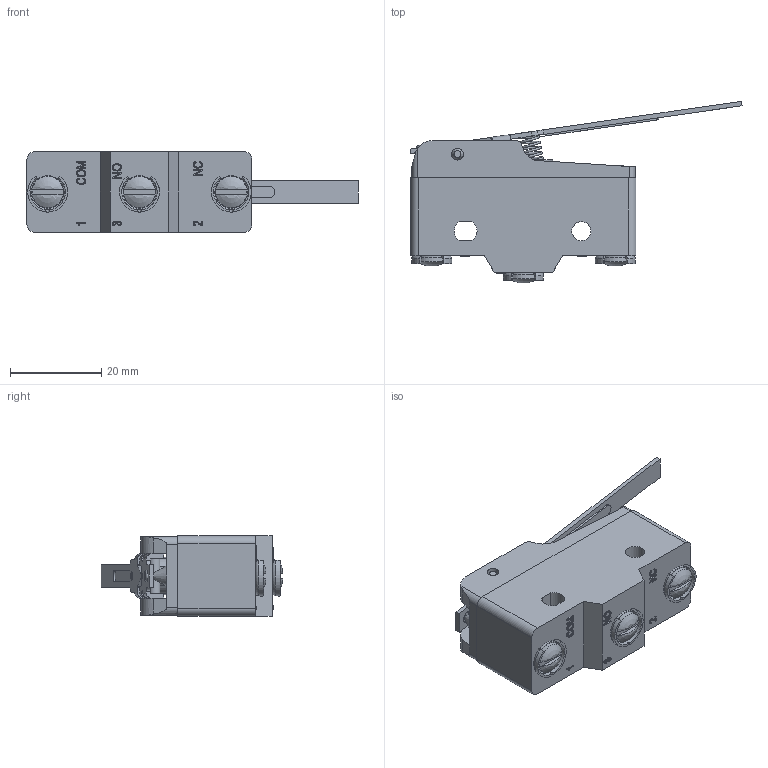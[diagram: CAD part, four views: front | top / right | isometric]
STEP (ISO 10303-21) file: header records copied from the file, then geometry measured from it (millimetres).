
FILE_DESCRIPTION((''),'2; 1');
FILE_NAME('','2026-03-27T16:22:42',(''),(''),'CST STEP Exporter V1.0','Unknown','');
FILE_SCHEMA(('CONFIG_CONTROL_DESIGN'));
Length unit declared in the file: metre
Assembly tree (12 placements, depth 2):
  (unnamed)
    (unnamed)
    (unnamed)
    (unnamed)
    (unnamed)
    (unnamed)
    (unnamed)
    (unnamed)
    (unnamed)
    (unnamed)
    (unnamed)
    (unnamed)
    (unnamed)
Bounding box: 72.89 x 39.83 x 17.7 mm (x, y, z)
Surface area: 16159.1 mm2 (no closed solid volume)
Topology: 0 solids, 13 shells, 465 faces, 1340 edges, 910 vertices
Faces by surface type: plane 313, cylinder 70, extrusion 62, torus 7, revolution 6, cone 3, sphere 2, bspline 2
Full cylindrical faces by diameter (mm): 2 x1, 2.4 x1, 2.5 x1, 2.6 x3, 4 x1, 4.2 x1, 6.9 x3, 8.2 x1
Entity records: 21595 total; most frequent: CARTESIAN_POINT 5973, ORIENTED_EDGE 2426, DIRECTION 2189, EDGE_CURVE 1308, VECTOR 992, LINE 930, VERTEX_POINT 879, AXIS2_PLACEMENT_3D 597
